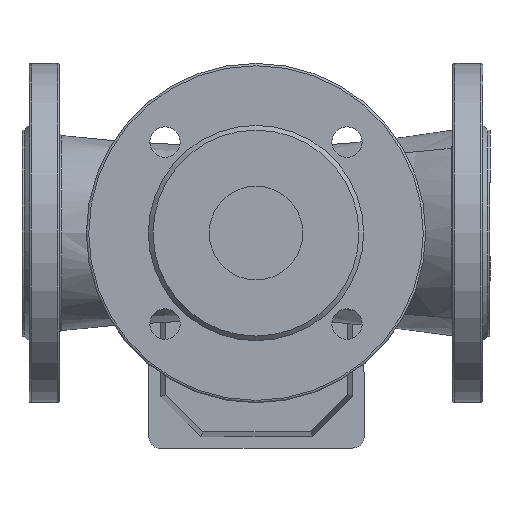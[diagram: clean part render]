
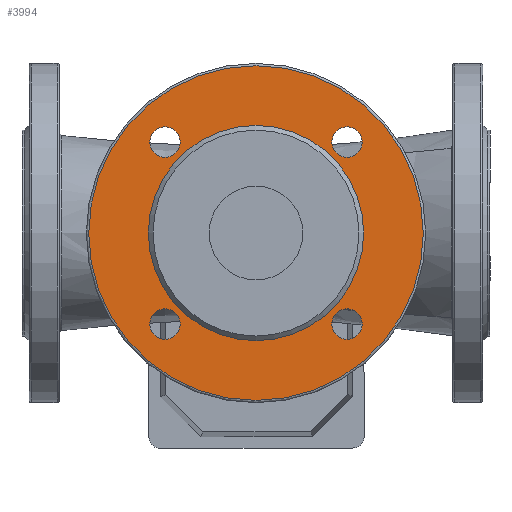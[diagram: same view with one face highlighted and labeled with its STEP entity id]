
A CAD part, front view. The second image highlights one B-rep face of the part: STEP entity #3994.
In plain terms, the highlighted planar face has unit normal (0, -1, 0).
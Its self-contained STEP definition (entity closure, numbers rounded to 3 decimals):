
#850=PLANE('',#4395);
#956=FACE_BOUND('',#1556,.T.);
#957=FACE_BOUND('',#1557,.T.);
#958=FACE_BOUND('',#1558,.T.);
#959=FACE_BOUND('',#1559,.T.);
#960=FACE_BOUND('',#1560,.T.);
#1213=FACE_OUTER_BOUND('',#1555,.T.);
#1555=EDGE_LOOP('',(#3632));
#1556=EDGE_LOOP('',(#3633));
#1557=EDGE_LOOP('',(#3634));
#1558=EDGE_LOOP('',(#3635));
#1559=EDGE_LOOP('',(#3636));
#1560=EDGE_LOOP('',(#3637));
#1736=CIRCLE('',#4333,6.5);
#1738=CIRCLE('',#4336,6.5);
#1740=CIRCLE('',#4339,6.5);
#1742=CIRCLE('',#4342,6.5);
#1772=CIRCLE('',#4394,46.);
#1773=CIRCLE('',#4396,71.5);
#2096=VERTEX_POINT('',#6516);
#2098=VERTEX_POINT('',#6521);
#2100=VERTEX_POINT('',#6526);
#2102=VERTEX_POINT('',#6531);
#2145=VERTEX_POINT('',#7831);
#2146=VERTEX_POINT('',#7834);
#2603=EDGE_CURVE('',#2096,#2096,#1736,.T.);
#2605=EDGE_CURVE('',#2098,#2098,#1738,.T.);
#2607=EDGE_CURVE('',#2100,#2100,#1740,.T.);
#2609=EDGE_CURVE('',#2102,#2102,#1742,.T.);
#2657=EDGE_CURVE('',#2145,#2145,#1772,.T.);
#2658=EDGE_CURVE('',#2146,#2146,#1773,.T.);
#3632=ORIENTED_EDGE('',*,*,#2658,.F.);
#3633=ORIENTED_EDGE('',*,*,#2603,.T.);
#3634=ORIENTED_EDGE('',*,*,#2605,.T.);
#3635=ORIENTED_EDGE('',*,*,#2607,.T.);
#3636=ORIENTED_EDGE('',*,*,#2609,.T.);
#3637=ORIENTED_EDGE('',*,*,#2657,.F.);
#3994=ADVANCED_FACE('',(#1213,#956,#957,#958,#959,#960),#850,.T.);
#4333=AXIS2_PLACEMENT_3D('',#6517,#5373,#5374);
#4336=AXIS2_PLACEMENT_3D('',#6522,#5379,#5380);
#4339=AXIS2_PLACEMENT_3D('',#6527,#5385,#5386);
#4342=AXIS2_PLACEMENT_3D('',#6532,#5391,#5392);
#4394=AXIS2_PLACEMENT_3D('',#7832,#5496,#5497);
#4395=AXIS2_PLACEMENT_3D('',#7833,#5498,#5499);
#4396=AXIS2_PLACEMENT_3D('',#7835,#5500,#5501);
#5373=DIRECTION('center_axis',(0.,1.,0.));
#5374=DIRECTION('ref_axis',(-0.581,0.,0.814));
#5379=DIRECTION('center_axis',(0.,1.,0.));
#5380=DIRECTION('ref_axis',(-0.814,0.,-0.581));
#5385=DIRECTION('center_axis',(0.,1.,0.));
#5386=DIRECTION('ref_axis',(0.581,0.,-0.814));
#5391=DIRECTION('center_axis',(0.,1.,0.));
#5392=DIRECTION('ref_axis',(0.814,0.,0.581));
#5496=DIRECTION('center_axis',(0.,-1.,0.));
#5497=DIRECTION('ref_axis',(0.814,0.,-0.581));
#5498=DIRECTION('center_axis',(0.,-1.,0.));
#5499=DIRECTION('ref_axis',(0.,0.,-1.));
#5500=DIRECTION('center_axis',(0.,1.,0.));
#5501=DIRECTION('ref_axis',(0.,0.,-1.));
#6516=CARTESIAN_POINT('',(1287.159,879.781,952.591));
#6517=CARTESIAN_POINT('Origin',(1287.159,879.781,946.091));
#6521=CARTESIAN_POINT('',(1280.659,879.781,868.309));
#6522=CARTESIAN_POINT('Origin',(1287.159,879.781,868.309));
#6526=CARTESIAN_POINT('',(1364.941,879.781,861.809));
#6527=CARTESIAN_POINT('Origin',(1364.941,879.781,868.309));
#6531=CARTESIAN_POINT('',(1371.441,879.781,946.091));
#6532=CARTESIAN_POINT('Origin',(1364.941,879.781,946.091));
#7831=CARTESIAN_POINT('',(1372.05,879.781,907.2));
#7832=CARTESIAN_POINT('Origin',(1326.05,879.781,907.2));
#7833=CARTESIAN_POINT('Origin',(1254.55,879.781,907.2));
#7834=CARTESIAN_POINT('',(1397.55,879.781,907.2));
#7835=CARTESIAN_POINT('Origin',(1326.05,879.781,907.2));
